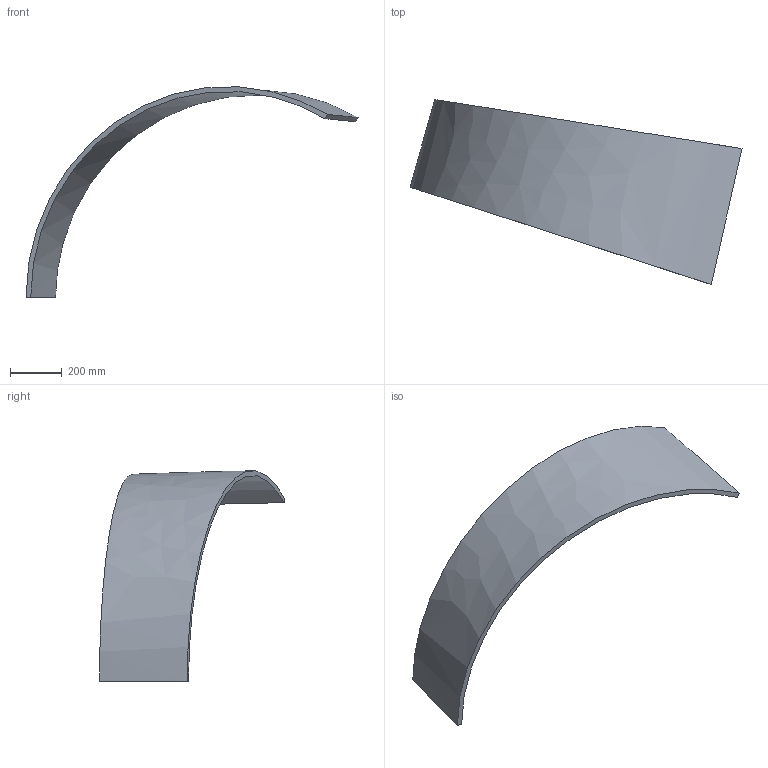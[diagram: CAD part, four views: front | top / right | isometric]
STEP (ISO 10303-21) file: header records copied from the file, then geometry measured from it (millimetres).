
FILE_DESCRIPTION (( 'STEP AP214' ), '1' );
FILE_NAME ('Section 5-C.STEP', '2025-01-09T19:43:27', ( '' ), ( '' ), 'SwSTEP 2.0', 'SolidWorks 2024', '' );
FILE_SCHEMA (( 'AUTOMOTIVE_DESIGN' ));
Length unit declared in the file: inch
Products named in the file (1): Section 5-C
Bounding box: 1288.93 x 718.42 x 816.97 mm (x, y, z)
Volume: 13629170.2 mm3; surface area: 1511724.3 mm2
Topology: 1 solids, 1 shells, 6 faces, 12 edges, 8 vertices
Faces by surface type: bspline 6
Entity records: 315 total; most frequent: CARTESIAN_POINT 201, ORIENTED_EDGE 24, B_SPLINE_CURVE_WITH_KNOTS 12, EDGE_CURVE 12, VERTEX_POINT 8, ADVANCED_FACE 6, FACE_OUTER_BOUND 6, EDGE_LOOP 6
